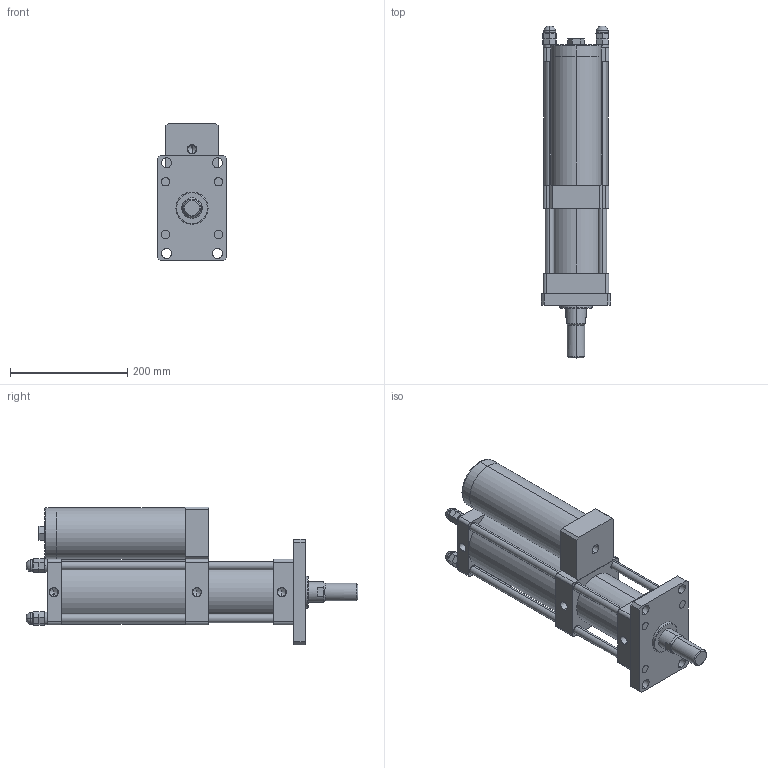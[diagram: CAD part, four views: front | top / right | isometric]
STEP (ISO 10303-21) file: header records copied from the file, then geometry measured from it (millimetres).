
FILE_DESCRIPTION (( 'STEP AP203' ), '1' );
FILE_NAME ('MPT-80-50-10-8T.STEP', '2016-03-11T03:26:24', ( 'WIN' ), ( '' ), 'SwSTEP 2.0', 'SolidWorks 2014', '' );
FILE_SCHEMA (( 'CONFIG_CONTROL_DESIGN' ));
Length unit declared in the file: millimetre
Products named in the file (1): MPT-80-50-10-8T
Bounding box: 118 x 567.01 x 235 mm (x, y, z)
Volume: 5215943.2 mm3; surface area: 611211 mm2
Topology: 20 solids, 20 shells, 399 faces, 968 edges, 562 vertices
Faces by surface type: plane 186, cylinder 90, torus 48, bspline 48, cone 27
Entity records: 12726 total; most frequent: CARTESIAN_POINT 3706, DIRECTION 1899, ORIENTED_EDGE 1804, EDGE_CURVE 902, AXIS2_PLACEMENT_3D 699, VERTEX_POINT 562, LINE 501, VECTOR 501
